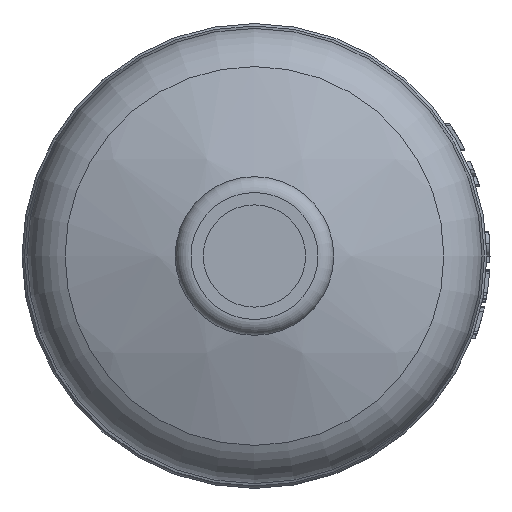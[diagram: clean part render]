
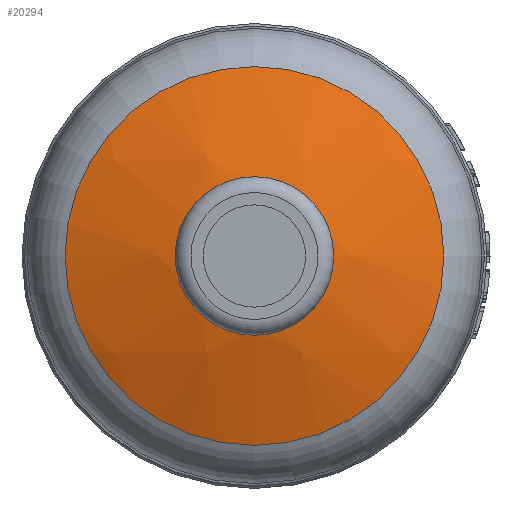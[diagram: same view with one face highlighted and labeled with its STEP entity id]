
A CAD part, front view. The second image highlights one B-rep face of the part: STEP entity #20294.
In plain terms, the highlighted spherical face has radius 60 mm.
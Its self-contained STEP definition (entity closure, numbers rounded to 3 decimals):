
#20=SPHERICAL_SURFACE('',#21874,60.);
#5169=FACE_BOUND('',#7511,.T.);
#6287=FACE_OUTER_BOUND('',#7510,.T.);
#7510=EDGE_LOOP('',(#19165));
#7511=EDGE_LOOP('',(#19166));
#7523=CIRCLE('',#20309,9.828);
#8013=CIRCLE('',#21873,23.885);
#8021=VERTEX_POINT('',#26454);
#10047=VERTEX_POINT('',#43251);
#10055=EDGE_CURVE('',#8021,#8021,#7523,.T.);
#13088=EDGE_CURVE('',#10047,#10047,#8013,.T.);
#19165=ORIENTED_EDGE('',*,*,#13088,.T.);
#19166=ORIENTED_EDGE('',*,*,#10055,.T.);
#20294=ADVANCED_FACE('',(#6287,#5169),#20,.T.);
#20309=AXIS2_PLACEMENT_3D('',#26455,#21902,#21903);
#21873=AXIS2_PLACEMENT_3D('',#43252,#26421,#26422);
#21874=AXIS2_PLACEMENT_3D('',#43253,#26423,#26424);
#21902=DIRECTION('center_axis',(0.,1.,0.));
#21903=DIRECTION('ref_axis',(0.,0.,1.));
#26421=DIRECTION('center_axis',(0.,-1.,0.));
#26422=DIRECTION('ref_axis',(1.,0.,0.));
#26423=DIRECTION('center_axis',(0.,0.,
1.));
#26424=DIRECTION('ref_axis',(-1.,0.,0.));
#26454=CARTESIAN_POINT('',(-9.828,-70.69,0.));
#26455=CARTESIAN_POINT('Origin',(0.,-70.69,0.));
#43251=CARTESIAN_POINT('',(23.885,-66.541,0.));
#43252=CARTESIAN_POINT('Origin',(0.,-66.541,
0.));
#43253=CARTESIAN_POINT('Origin',(0.,-11.5,0.));
